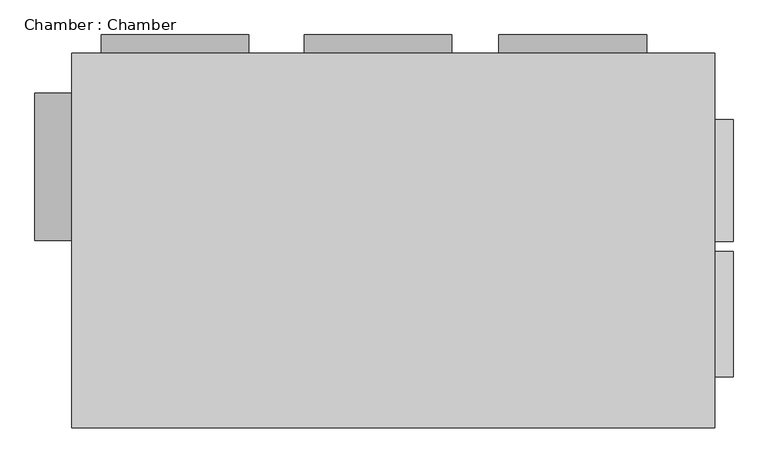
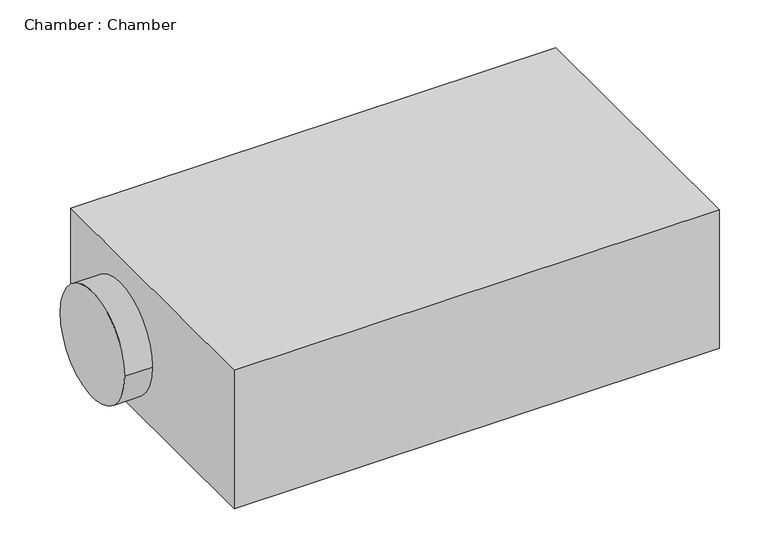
"""IFC4 building model written with IfcOpenShell, lengths in millimetres: damper geometry, Chamber : Chamber."""

from ifc_helpers import new_model, si_unit, point, frame, frame_2d, origin, origin_with_axes, place, context, project, spatial, polyline, circle_curve, trimmed, segment, composite_curve, outline, extrude, source, transform, mapped, element, save


def chamber_chamber_9bc9a1ce(model_context):
    return source(origin(), model_context, "Body", "SweptSolid", [
        extrude(outline(composite_curve([segment(trimmed(circle_curve(frame_2d((227.5, -591.0)), 200.0), [point((227.5, -391.0))], [point((227.5, -791.0))], False, "CARTESIAN"), True, "CONTINUOUS"), segment(trimmed(circle_curve(frame_2d((227.5, -591.0)), 200.0), [point((227.5, -791.0))], [point((227.5, -391.0))], False, "CARTESIAN"), True, "CONTINUOUS")], self_intersect=False)), frame((0.0, 507.5, 0.0), z_axis=(0.0, 1.0, 0.0), x_axis=(0.0, 0.0, 1.0)), (0.0, 0.0, 1.0), 50.0),
        extrude(outline(composite_curve([segment(trimmed(circle_curve(frame_2d((229.5, -41.0)), 200.0), [point((229.5, 159.0))], [point((229.5, -241.0))], False, "CARTESIAN"), True, "CONTINUOUS"), segment(trimmed(circle_curve(frame_2d((229.5, -41.0)), 200.0), [point((229.5, -241.0))], [point((229.5, 159.0))], False, "CARTESIAN"), True, "CONTINUOUS")], self_intersect=False)), frame((0.0, 507.5, 0.0), z_axis=(0.0, 1.0, 0.0), x_axis=(0.0, 0.0, 1.0)), (0.0, 0.0, 1.0), 50.0),
        extrude(outline(composite_curve([segment(trimmed(circle_curve(frame_2d((227.5, 486.0)), 200.0), [point((227.5, 686.0))], [point((227.5, 286.0))], False, "CARTESIAN"), True, "CONTINUOUS"), segment(trimmed(circle_curve(frame_2d((227.5, 486.0)), 200.0), [point((227.5, 286.0))], [point((227.5, 686.0))], False, "CARTESIAN"), True, "CONTINUOUS")], self_intersect=False)), frame((0.0, 507.5, 0.0), z_axis=(0.0, 1.0, 0.0), x_axis=(0.0, 0.0, 1.0)), (0.0, 0.0, 1.0), 50.0),
        extrude(outline(composite_curve([segment(trimmed(circle_curve(frame_2d((199.75, 229.5)), 200.0), [point((399.75, 229.5))], [point((-0.25, 229.5))], False, "CARTESIAN"), True, "CONTINUOUS"), segment(trimmed(circle_curve(frame_2d((199.75, 229.5)), 200.0), [point((-0.25, 229.5))], [point((399.75, 229.5))], False, "CARTESIAN"), True, "CONTINUOUS")], self_intersect=False)), frame((-970.0, 0.0, 0.0), z_axis=(1.0, 0.0, 0.0), x_axis=(0.0, 1.0, 0.0)), (0.0, 0.0, 1.0), 100.0),
        extrude(outline(composite_curve([segment(trimmed(circle_curve(frame_2d((162.75, 230.5)), 165.0), [point((327.75, 230.5))], [point((-2.25, 230.5))], False, "CARTESIAN"), True, "CONTINUOUS"), segment(trimmed(circle_curve(frame_2d((162.75, 230.5)), 165.0), [point((-2.25, 230.5))], [point((327.75, 230.5))], False, "CARTESIAN"), True, "CONTINUOUS")], self_intersect=False)), frame((870.0, 0.0, 0.0), z_axis=(1.0, 0.0, 0.0), x_axis=(0.0, 1.0, 0.0)), (0.0, 0.0, 1.0), 50.0),
        extrude(outline(composite_curve([segment(trimmed(circle_curve(frame_2d((-199.75, 224.5)), 170.0), [point((-369.75, 224.5))], [point((-29.75, 224.5))], False, "CARTESIAN"), True, "CONTINUOUS"), segment(trimmed(circle_curve(frame_2d((-199.75, 224.5)), 170.0), [point((-29.75, 224.5))], [point((-369.75, 224.5))], False, "CARTESIAN"), True, "CONTINUOUS")], self_intersect=False)), frame((870.0, 0.0, 0.0), z_axis=(1.0, 0.0, 0.0), x_axis=(0.0, 1.0, 0.0)), (0.0, 0.0, 1.0), 50.0),
        extrude(outline(polyline([(870.0, 507.5), (870.0, -507.5), (-870.0, -507.5), (-870.0, 507.5), (870.0, 507.5)])), origin_with_axes(), (0.0, 0.0, 1.0), 525.0),
    ])


if __name__ == "__main__":
    model = new_model("IFC4")
    model_context = context("Model", 3, world=origin())
    ifc_project = project(units=[si_unit("LENGTHUNIT", "METRE", prefix="MILLI")], contexts=[model_context])
    site = spatial("IfcSite", under=ifc_project)
    building = spatial("IfcBuilding", under=site)
    placement = place(None, origin())
    chamber_chamber_shape = chamber_chamber_9bc9a1ce(model_context)
    element("IfcDamper", 1, ObjectType="Chamber : Chamber", at=placement, inside=building, context=model_context, shape_type="MappedRepresentation", body=[
        mapped(chamber_chamber_shape, transform((0.0, 0.0, 0.0), x_axis=(1.0, 0.0, 0.0), y_axis=(0.0, 1.0, 0.0), z_axis=(0.0, 0.0, 1.0))),
    ])
    save(model, "model.ifc")
